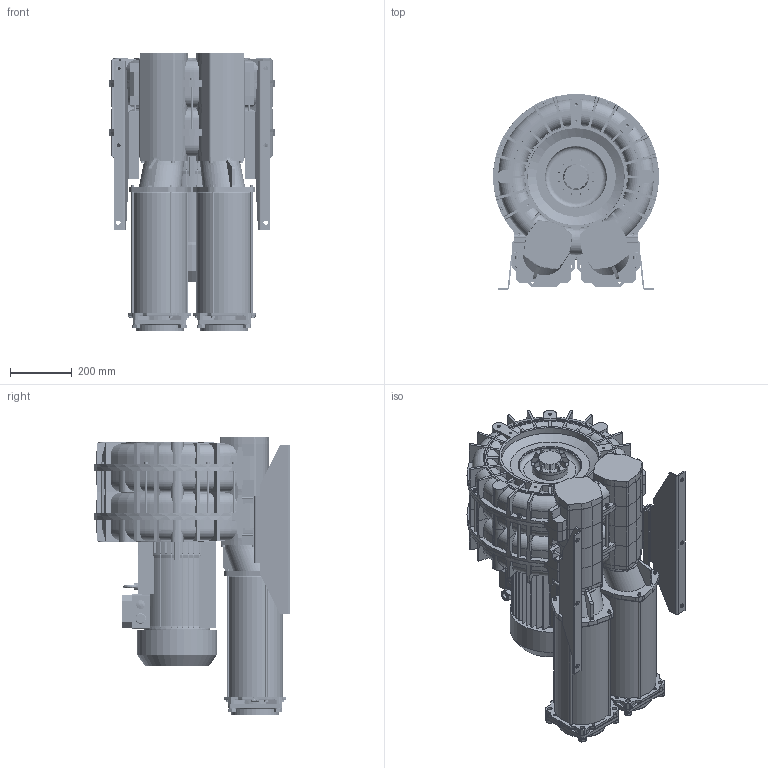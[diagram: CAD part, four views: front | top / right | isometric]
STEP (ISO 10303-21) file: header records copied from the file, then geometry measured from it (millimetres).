
FILE_DESCRIPTION (( 'STEP AP203' ), '1' );
FILE_NAME ('STP-L_e_10_TS_MOR_IE3WR_132_15.0kW-3_24-00.step', '2024-12-02T14:18:38', ( '' ), ( '' ), 'SwSTEP 2.0', 'SolidWorks 2023', '' );
FILE_SCHEMA (( 'CONFIG_CONTROL_DESIGN' ));
Length unit declared in the file: millimetre
Products named in the file (1): STP-L_e_10_TS_MOR_IE3WR_132_15.0kW-3_24-00
Bounding box: 537.57 x 633.15 x 901.5 mm (x, y, z)
Volume: 102817423.6 mm3; surface area: 5928658.7 mm2
Topology: 109 solids, 109 shells, 4622 faces, 12153 edges, 7725 vertices
Faces by surface type: plane 2202, cylinder 1216, cone 426, torus 401, bspline 336, sphere 41
Full cylindrical faces by diameter (mm): 6.8 x16, 7.5 x8, 8 x33, 8.4 x27, 8.5 x16, 8.566 x2, 8.8 x2, 9 x24, 9.728 x2, 9.98 x2, 10 x11, 11 x8, 12 x6, 12.02 x2, 13 x52, 14 x10, 16 x12, 17 x16, 18 x1, 19 x1, 20 x2, 21.4 x1, 24 x20, 25 x3, 28 x1, 115 x4, 120 x1, 128 x2, 136 x2, 149 x2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
Entity records: 162765 total; most frequent: CARTESIAN_POINT 55957, ORIENTED_EDGE 22644, DIRECTION 21188, EDGE_CURVE 11322, AXIS2_PLACEMENT_3D 8082, VERTEX_POINT 7530, EDGE_LOOP 5498, VECTOR 5024
